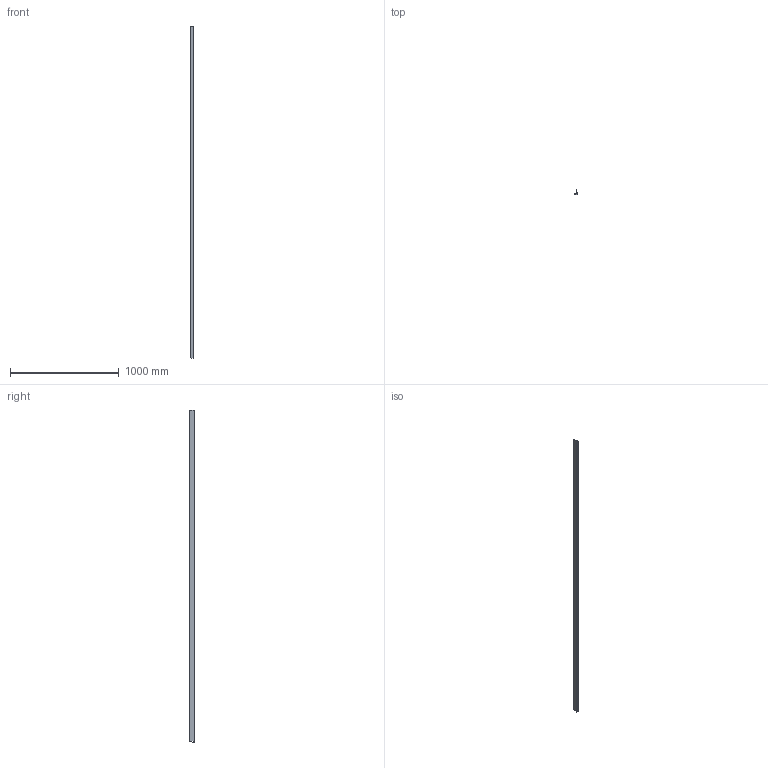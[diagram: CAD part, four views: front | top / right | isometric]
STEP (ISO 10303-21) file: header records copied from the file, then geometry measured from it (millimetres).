
FILE_DESCRIPTION (( 'STEP AP203' ), '1' );
FILE_NAME ('M03C.STEP', '2018-06-19T14:56:37', ( 'Michael Moliner' ), ( '' ), 'SwSTEP 2.0', 'SolidWorks 2018', '' );
FILE_SCHEMA (( 'CONFIG_CONTROL_DESIGN' ));
Length unit declared in the file: inch
Products named in the file (2): M03C
Bounding box: 25.91 x 42.29 x 3048 mm (x, y, z)
Volume: 169294.8 mm3; surface area: 672804.5 mm2
Topology: 2 solids, 2 shells, 28 faces, 72 edges, 48 vertices
Faces by surface type: plane 20, cylinder 8
Entity records: 1007 total; most frequent: CARTESIAN_POINT 150, DIRECTION 148, ORIENTED_EDGE 144, EDGE_CURVE 72, VECTOR 56, LINE 56, VERTEX_POINT 48, AXIS2_PLACEMENT_3D 46
